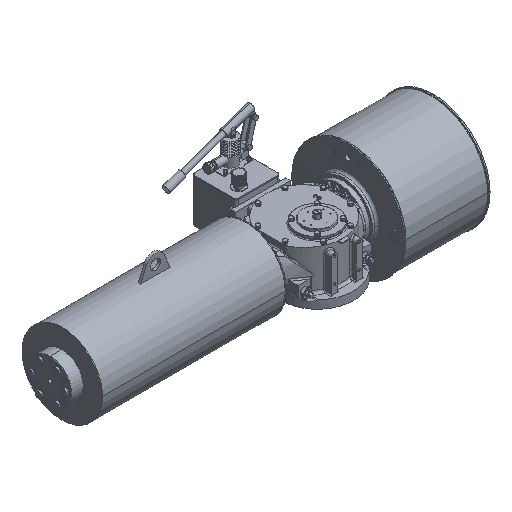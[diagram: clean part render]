
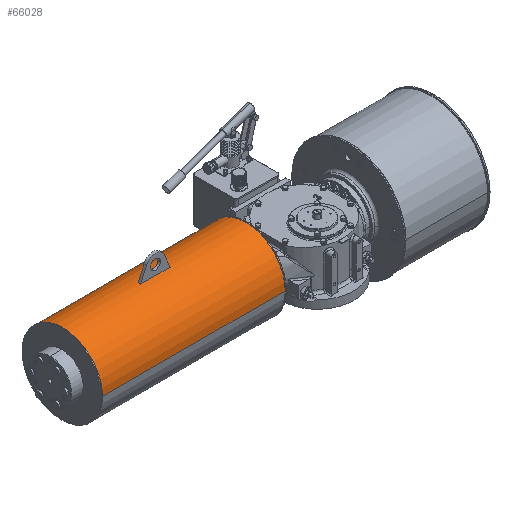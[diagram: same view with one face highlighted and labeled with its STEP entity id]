
A CAD part, isometric view. The second image highlights one B-rep face of the part: STEP entity #66028.
In plain terms, the highlighted cylindrical face has radius 162.5 mm (diameter 325 mm), a partial arc.
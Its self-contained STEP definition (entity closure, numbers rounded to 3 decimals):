
#97 = DIRECTION ( 'NONE',  ( 0., -1., 0. ) ) ;
#3405 = CYLINDRICAL_SURFACE ( 'NONE', #42617, 162.5 ) ;
#3612 = ORIENTED_EDGE ( 'NONE', *, *, #58759, .T. ) ;
#4195 = CARTESIAN_POINT ( 'NONE',  ( -639.5, 40.5, 236.923 ) ) ;
#5039 = DIRECTION ( 'NONE',  ( 1., 0., 0. ) ) ;
#6003 = DIRECTION ( 'NONE',  ( 0., 1., 0. ) ) ;
#6394 = AXIS2_PLACEMENT_3D ( 'NONE', #89252, #18820, #48505 ) ;
#7982 = VERTEX_POINT ( 'NONE', #81335 ) ;
#8194 = CARTESIAN_POINT ( 'NONE',  ( -208., 30.5, 236.923 ) ) ;
#8266 = VECTOR ( 'NONE', #59000, 1000. ) ;
#9889 = ORIENTED_EDGE ( 'NONE', *, *, #23231, .T. ) ;
#10498 = CIRCLE ( 'NONE', #74765, 162.5 ) ;
#10713 = DIRECTION ( 'NONE',  ( -1., 0., 0. ) ) ;
#10960 = FACE_BOUND ( 'NONE', #21156, .T. ) ;
#11000 = VERTEX_POINT ( 'NONE', #27363 ) ;
#13548 = DIRECTION ( 'NONE',  ( -1., 0., 0. ) ) ;
#14154 = EDGE_CURVE ( 'NONE', #48236, #55987, #43392, .T. ) ;
#14793 = CARTESIAN_POINT ( 'NONE',  ( -208., -127., 74.5 ) ) ;
#15284 = EDGE_CURVE ( 'NONE', #55987, #85700, #50216, .T. ) ;
#16150 = ORIENTED_EDGE ( 'NONE', *, *, #14154, .T. ) ;
#16259 = DIRECTION ( 'NONE',  ( -1., 0., 0. ) ) ;
#16731 = VERTEX_POINT ( 'NONE', #44651 ) ;
#18039 = AXIS2_PLACEMENT_3D ( 'NONE', #60506, #67542, #97 ) ;
#18251 = ORIENTED_EDGE ( 'NONE', *, *, #94856, .T. ) ;
#18820 = DIRECTION ( 'NONE',  ( -1., 0., 0. ) ) ;
#19216 = CARTESIAN_POINT ( 'NONE',  ( -205., 35.5, 74.5 ) ) ;
#19236 = CIRCLE ( 'NONE', #6394, 162.5 ) ;
#20260 = CARTESIAN_POINT ( 'NONE',  ( -208., 198., 74.5 ) ) ;
#20756 = VERTEX_POINT ( 'NONE', #55710 ) ;
#21156 = EDGE_LOOP ( 'NONE', ( #50086, #9889, #40290, #18251, #62578, #44916 ) ) ;
#22902 = AXIS2_PLACEMENT_3D ( 'NONE', #19216, #10713, #42362 ) ;
#23103 = VERTEX_POINT ( 'NONE', #83470 ) ;
#23231 = EDGE_CURVE ( 'NONE', #7982, #23103, #10498, .T. ) ;
#25608 = VERTEX_POINT ( 'NONE', #4195 ) ;
#27363 = CARTESIAN_POINT ( 'NONE',  ( -639.5, 30.5, 236.923 ) ) ;
#27510 = VECTOR ( 'NONE', #16259, 1000. ) ;
#27683 = DIRECTION ( 'NONE',  ( 0., -1., 0. ) ) ;
#28423 = DIRECTION ( 'NONE',  ( 0., -1., 0. ) ) ;
#30579 = AXIS2_PLACEMENT_3D ( 'NONE', #58358, #50794, #6003 ) ;
#34069 = CARTESIAN_POINT ( 'NONE',  ( -208., 35.5, 74.5 ) ) ;
#40254 = EDGE_LOOP ( 'NONE', ( #3612, #16150, #74366, #81649 ) ) ;
#40290 = ORIENTED_EDGE ( 'NONE', *, *, #67531, .T. ) ;
#42362 = DIRECTION ( 'NONE',  ( 0., -1., 0. ) ) ;
#42617 = AXIS2_PLACEMENT_3D ( 'NONE', #34069, #87928, #95483 ) ;
#43392 = LINE ( 'NONE', #20260, #8266 ) ;
#43529 = VERTEX_POINT ( 'NONE', #88951 ) ;
#43999 = CARTESIAN_POINT ( 'NONE',  ( -519.5, 35.5, 74.5 ) ) ;
#44651 = CARTESIAN_POINT ( 'NONE',  ( -639.5, 35.5, 237. ) ) ;
#44916 = ORIENTED_EDGE ( 'NONE', *, *, #54783, .T. ) ;
#48236 = VERTEX_POINT ( 'NONE', #62979 ) ;
#48505 = DIRECTION ( 'NONE',  ( 0., 1., 0. ) ) ;
#50086 = ORIENTED_EDGE ( 'NONE', *, *, #90322, .F. ) ;
#50216 = CIRCLE ( 'NONE', #18039, 162.5 ) ;
#50586 = VECTOR ( 'NONE', #13548, 1000. ) ;
#50794 = DIRECTION ( 'NONE',  ( -1., 0., 0. ) ) ;
#54783 = EDGE_CURVE ( 'NONE', #16731, #25608, #19236, .T. ) ;
#55710 = CARTESIAN_POINT ( 'NONE',  ( -205., -127., 74.5 ) ) ;
#55987 = VERTEX_POINT ( 'NONE', #91345 ) ;
#58358 = CARTESIAN_POINT ( 'NONE',  ( -639.5, 35.5, 74.5 ) ) ;
#58759 = EDGE_CURVE ( 'NONE', #20756, #48236, #75911, .T. ) ;
#59000 = DIRECTION ( 'NONE',  ( -1., 0., 0. ) ) ;
#60506 = CARTESIAN_POINT ( 'NONE',  ( -954., 35.5, 74.5 ) ) ;
#60681 = VECTOR ( 'NONE', #90745, 1000. ) ;
#61112 = CIRCLE ( 'NONE', #30579, 162.5 ) ;
#62578 = ORIENTED_EDGE ( 'NONE', *, *, #88017, .T. ) ;
#62979 = CARTESIAN_POINT ( 'NONE',  ( -205., 198., 74.5 ) ) ;
#66028 = ADVANCED_FACE ( 'NONE', ( #10960, #72314 ), #3405, .T. ) ;
#67531 = EDGE_CURVE ( 'NONE', #23103, #43529, #97431, .T. ) ;
#67542 = DIRECTION ( 'NONE',  ( 1., 0., 0. ) ) ;
#68826 = LINE ( 'NONE', #99535, #50586 ) ;
#72314 = FACE_OUTER_BOUND ( 'NONE', #40254, .T. ) ;
#74215 = DIRECTION ( 'NONE',  ( 1., 0., 0. ) ) ;
#74366 = ORIENTED_EDGE ( 'NONE', *, *, #15284, .T. ) ;
#74765 = AXIS2_PLACEMENT_3D ( 'NONE', #98093, #5039, #27683 ) ;
#75911 = CIRCLE ( 'NONE', #22902, 162.5 ) ;
#76006 = EDGE_CURVE ( 'NONE', #20756, #85700, #85183, .T. ) ;
#77101 = LINE ( 'NONE', #8194, #60681 ) ;
#81335 = CARTESIAN_POINT ( 'NONE',  ( -519.5, 40.5, 236.923 ) ) ;
#81649 = ORIENTED_EDGE ( 'NONE', *, *, #76006, .F. ) ;
#83470 = CARTESIAN_POINT ( 'NONE',  ( -519.5, 35.5, 237. ) ) ;
#85183 = LINE ( 'NONE', #14793, #27510 ) ;
#85700 = VERTEX_POINT ( 'NONE', #99395 ) ;
#87928 = DIRECTION ( 'NONE',  ( -1., 0., 0. ) ) ;
#88017 = EDGE_CURVE ( 'NONE', #11000, #16731, #61112, .T. ) ;
#88951 = CARTESIAN_POINT ( 'NONE',  ( -519.5, 30.5, 236.923 ) ) ;
#89252 = CARTESIAN_POINT ( 'NONE',  ( -639.5, 35.5, 74.5 ) ) ;
#90322 = EDGE_CURVE ( 'NONE', #7982, #25608, #68826, .T. ) ;
#90745 = DIRECTION ( 'NONE',  ( -1., 0., 0. ) ) ;
#91345 = CARTESIAN_POINT ( 'NONE',  ( -954., 198., 74.5 ) ) ;
#94251 = AXIS2_PLACEMENT_3D ( 'NONE', #43999, #74215, #28423 ) ;
#94856 = EDGE_CURVE ( 'NONE', #43529, #11000, #77101, .T. ) ;
#95483 = DIRECTION ( 'NONE',  ( 0., -1., 0. ) ) ;
#97431 = CIRCLE ( 'NONE', #94251, 162.5 ) ;
#98093 = CARTESIAN_POINT ( 'NONE',  ( -519.5, 35.5, 74.5 ) ) ;
#99395 = CARTESIAN_POINT ( 'NONE',  ( -954., -127., 74.5 ) ) ;
#99535 = CARTESIAN_POINT ( 'NONE',  ( -208., 40.5, 236.923 ) ) ;
